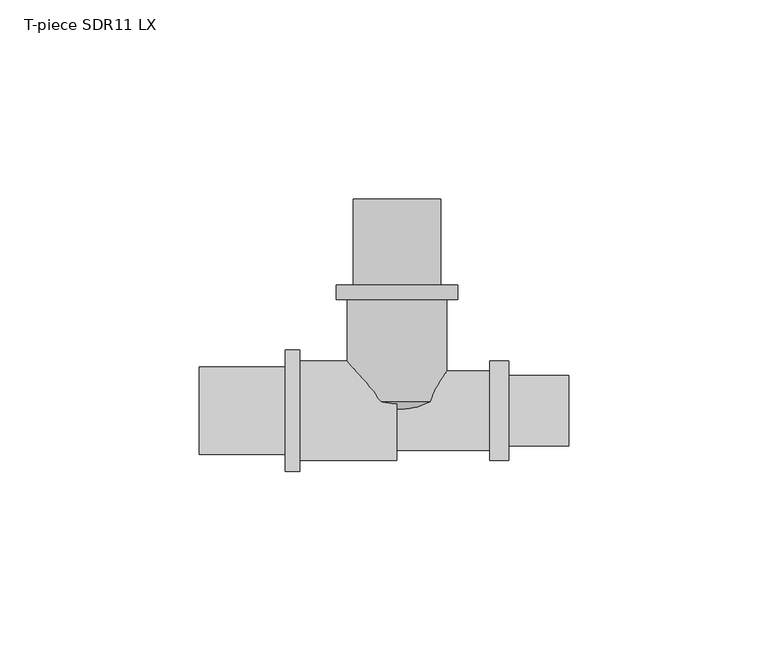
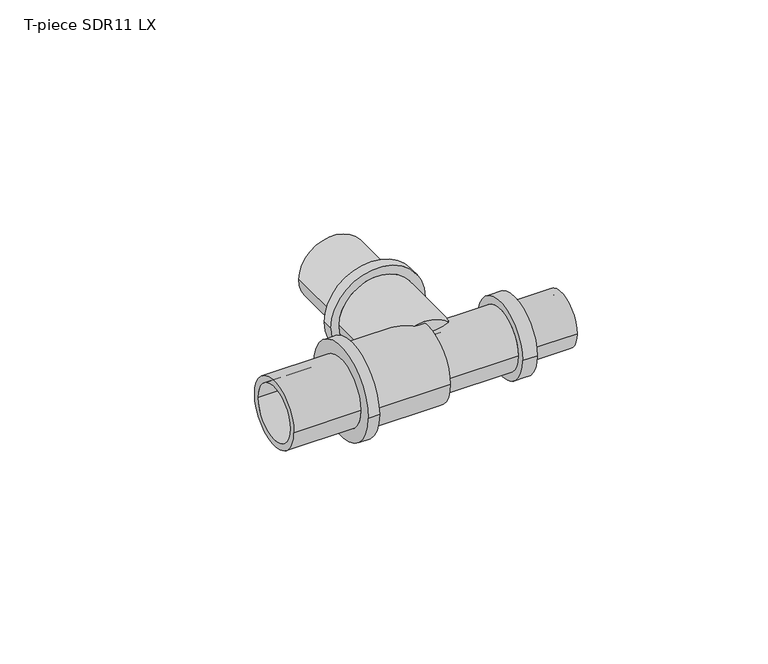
"""IFC4 building model written with IfcOpenShell, lengths in millimetres: pipe fitting geometry, T-piece SDR11 LX : T-piece LX SDR11 LX."""

from ifc_helpers import new_model, si_unit, point, frame, origin, place, context, project, spatial, polyline, circle_curve, ellipse_curve, trimmed, source, transform, mapped, element, save
from ifc_brep_helpers import plane_surface, cylinder_surface, revolved_surface, advanced_brep


def t_piece_sdr11_lx_62f51ed1(model_context):
    return source(origin(), model_context, "Body", "AdvancedBrep", [
        advanced_brep(
        [(12.5, 2.2621268, 0.0), (-12.5, 2.2621268, 0.0), (-12.5, 27.9, 0.0), (12.5, 27.9, 0.0), (8.9, 53.0, 0.0), (-8.9, 53.0, 0.0), (-8.9, 0.0, 0.0), (8.9, 0.0, 0.0), (11.0, 31.5, 0.0), (-11.0, 31.5, 0.0), (-11.0, 53.0, 0.0), (11.0, 53.0, 0.0), (15.25, 27.9, 0.0), (-15.25, 27.9, 0.0), (-15.25, 31.5, 0.0), (15.25, 31.5, 0.0)],
        [
            (0, 1, circle_curve(frame((0.0, 2.2621268, 0.0), z_axis=(0.0, 1.0, 0.0), x_axis=(-1.0, 0.0, 0.0)), 12.5)),
            (1, 2),
            (2, 3, circle_curve(frame((0.0, 27.9, 0.0), z_axis=(0.0, -1.0, 0.0), x_axis=(-1.0, 0.0, 0.0)), 12.5)),
            (3, 0),
            (4, 5, circle_curve(frame((0.0, 53.0, 0.0), z_axis=(0.0, 1.0, 0.0), x_axis=(-1.0, 0.0, 0.0)), 8.9)),
            (5, 6),
            (6, 7, circle_curve(frame((0.0, 0.0, 0.0), z_axis=(0.0, -1.0, 0.0), x_axis=(-1.0, 0.0, 0.0)), 8.9)),
            (7, 4),
            (8, 9, circle_curve(frame((0.0, 31.5, 0.0), z_axis=(0.0, 1.0, 0.0), x_axis=(-1.0, 0.0, 0.0)), 11.0)),
            (9, 10),
            (10, 11, circle_curve(frame((0.0, 53.0, 0.0), z_axis=(0.0, -1.0, 0.0), x_axis=(-1.0, 0.0, 0.0)), 11.0)),
            (11, 8),
            (12, 13, circle_curve(frame((0.0, 27.9, 0.0), z_axis=(0.0, 1.0, 0.0), x_axis=(-1.0, 0.0, 0.0)), 15.25)),
            (13, 14),
            (14, 15, circle_curve(frame((0.0, 31.5, 0.0), z_axis=(0.0, -1.0, 0.0), x_axis=(-1.0, 0.0, 0.0)), 15.25)),
            (15, 12),
            (12, 13, circle_curve(frame((0.0, 27.9, 0.0), z_axis=(0.0, -1.0, 0.0), x_axis=(1.0, 0.0, 0.0)), 15.25)),
            (2, 3, circle_curve(frame((0.0, 27.9, 0.0), z_axis=(0.0, 1.0, 0.0), x_axis=(1.0, 0.0, 0.0)), 12.5)),
            (1, 0, circle_curve(frame((0.0, 2.2621268, 0.0), z_axis=(0.0, 1.0, 0.0), x_axis=(1.0, 0.0, 0.0)), 12.5)),
            (5, 4, circle_curve(frame((0.0, 53.0, 0.0), z_axis=(0.0, 1.0, 0.0), x_axis=(1.0, 0.0, 0.0)), 8.9)),
            (7, 6, circle_curve(frame((0.0, 0.0, 0.0), z_axis=(0.0, -1.0, 0.0), x_axis=(1.0, 0.0, 0.0)), 8.9)),
            (10, 11, circle_curve(frame((0.0, 53.0, 0.0), z_axis=(0.0, 1.0, 0.0), x_axis=(1.0, 0.0, 0.0)), 11.0)),
            (9, 8, circle_curve(frame((0.0, 31.5, 0.0), z_axis=(0.0, 1.0, 0.0), x_axis=(1.0, 0.0, 0.0)), 11.0)),
            (14, 15, circle_curve(frame((0.0, 31.5, 0.0), z_axis=(0.0, 1.0, 0.0), x_axis=(1.0, 0.0, 0.0)), 15.25)),
            (6, 1, circle_curve(frame((-4.1462802, 11.5608022, 0.0), z_axis=(0.0, 0.0, -1.0), x_axis=(0.0, -1.0, 0.0)), 12.5)),
            (0, 7, circle_curve(frame((4.1462802, 11.5608022, 0.0), z_axis=(0.0, 0.0, -1.0), x_axis=(0.0, -1.0, 0.0)), 12.5)),
        ],
        [
            cylinder_surface(frame((0.0, 0.0, 0.0), z_axis=(0.0, -1.0, 0.0), x_axis=(-1.0, 0.0, 0.0)), 12.5),
            revolved_surface(polyline([(-8.9, 0.0, 0.0), (-8.9, 53.0, 0.0)]), (0.0, 0.0, 0.0), (0.0, -1.0, 0.0)),
            cylinder_surface(frame((0.0, 0.0, 0.0), z_axis=(0.0, -1.0, 0.0), x_axis=(-1.0, 0.0, 0.0)), 11.0),
            cylinder_surface(frame((0.0, 0.0, 0.0), z_axis=(0.0, -1.0, 0.0), x_axis=(-1.0, 0.0, 0.0)), 15.25),
            plane_surface(frame((0.0, 27.9, 0.0), z_axis=(0.0, -1.0, 0.0), x_axis=(1.0, 0.0, 0.0))),
            cylinder_surface(frame((0.0, 0.0, 0.0), z_axis=(0.0, -1.0, 0.0), x_axis=(1.0, 0.0, 0.0)), 12.5),
            revolved_surface(polyline([(8.9, 0.0, 0.0), (8.9, 53.0, 0.0)]), (0.0, 0.0, 0.0), (0.0, -1.0, 0.0)),
            plane_surface(frame((0.0, 53.0, 0.0), z_axis=(0.0, 1.0, 0.0), x_axis=(1.0, 0.0, 0.0))),
            cylinder_surface(frame((0.0, 0.0, 0.0), z_axis=(0.0, -1.0, 0.0), x_axis=(1.0, 0.0, 0.0)), 11.0),
            plane_surface(frame((0.0, 31.5, 0.0), z_axis=(0.0, 1.0, 0.0), x_axis=(1.0, 0.0, 0.0))),
            cylinder_surface(frame((0.0, 0.0, 0.0), z_axis=(0.0, -1.0, 0.0), x_axis=(1.0, 0.0, 0.0)), 15.25),
            revolved_surface(trimmed(ellipse_curve(frame((-4.1462802, 11.5608022, 0.0), z_axis=(0.0, 0.0, 1.0), x_axis=(0.0, -1.0, 0.0)), 12.5, 12.5), [point((-12.5, 2.2621268, 0.0))], [point((-8.9, 0.0, 0.0))], True, "CARTESIAN"), (0.0, 0.0, 0.0), (0.0, -1.0, 0.0)),
            revolved_surface(trimmed(ellipse_curve(frame((4.1462802, 11.5608022, 0.0), z_axis=(0.0, 0.0, -1.0), x_axis=(0.0, -1.0, 0.0)), 12.5, 12.5), [point((12.5, 2.2621268, 0.0))], [point((8.9, 0.0, 0.0))], True, "CARTESIAN"), (0.0, 0.0, 0.0), (0.0, -1.0, 0.0)),
        ],
        [
            (0, [[1, 2, 3, 4]]),
            (1, [[5, 6, 7, 8]]),
            (2, [[9, 10, 11, 12]]),
            (3, [[13, 14, 15, 16]]),
            (4, [[17, -13], [18, -3]]),
            (5, [[19, -4, -18, -2]]),
            (6, [[20, -8, 21, -6]]),
            (7, [[22, -11], [-20, -5]]),
            (8, [[23, -12, -22, -10]]),
            (9, [[24, -15], [-23, -9]]),
            (10, [[-17, -16, -24, -14]]),
            (11, [[-7, 25, -1, 26]]),
            (12, [[-21, -26, -19, -25]]),
        ],
    ),
        advanced_brep(
        [(23.3, 10.0, 0.0), (23.3, -10.0, 0.0), (0.0, -10.0, 0.0), (0.0, 10.0, 0.0), (0.0, 6.8, 0.0), (0.0, -6.8, 0.0), (43.0, -6.8, 0.0), (43.0, 6.8, 0.0), (43.0, 8.8, 0.0), (43.0, -8.8, 0.0), (28.0, -8.8, 0.0), (28.0, 8.8, 0.0), (28.0, 12.5, 0.0), (28.0, -12.5, 0.0), (23.3, -12.5, 0.0), (23.3, 12.5, 0.0)],
        [
            (0, 1, circle_curve(frame((23.3, 0.0, 0.0), z_axis=(-1.0, 0.0, 0.0), x_axis=(0.0, -1.0, 0.0)), 10.0)),
            (1, 2),
            (2, 3, circle_curve(frame((0.0, 0.0, 0.0), z_axis=(1.0, 0.0, 0.0), x_axis=(0.0, -1.0, 0.0)), 10.0)),
            (3, 0),
            (4, 5, circle_curve(frame((0.0, 0.0, 0.0), z_axis=(-1.0, 0.0, 0.0), x_axis=(0.0, -1.0, 0.0)), 6.8)),
            (5, 6),
            (6, 7, circle_curve(frame((43.0, 0.0, 0.0), z_axis=(1.0, 0.0, 0.0), x_axis=(0.0, -1.0, 0.0)), 6.8)),
            (7, 4),
            (8, 9, circle_curve(frame((43.0, 0.0, 0.0), z_axis=(-1.0, 0.0, 0.0), x_axis=(0.0, -1.0, 0.0)), 8.8)),
            (9, 10),
            (10, 11, circle_curve(frame((28.0, 0.0, 0.0), z_axis=(1.0, 0.0, 0.0), x_axis=(0.0, -1.0, 0.0)), 8.8)),
            (11, 8),
            (12, 13, circle_curve(frame((28.0, 0.0, 0.0), z_axis=(-1.0, 0.0, 0.0), x_axis=(0.0, -1.0, 0.0)), 12.5)),
            (13, 14),
            (14, 15, circle_curve(frame((23.3, 0.0, 0.0), z_axis=(1.0, 0.0, 0.0), x_axis=(0.0, -1.0, 0.0)), 12.5)),
            (15, 12),
            (14, 15, circle_curve(frame((23.3, 0.0, 0.0), z_axis=(-1.0, 0.0, 0.0), x_axis=(0.0, 1.0, 0.0)), 12.5)),
            (0, 1, circle_curve(frame((23.3, 0.0, 0.0), z_axis=(1.0, 0.0, 0.0), x_axis=(0.0, 1.0, 0.0)), 10.0)),
            (3, 2, circle_curve(frame((0.0, 0.0, 0.0), z_axis=(1.0, 0.0, 0.0), x_axis=(0.0, 1.0, 0.0)), 10.0)),
            (4, 5, circle_curve(frame((0.0, 0.0, 0.0), z_axis=(1.0, 0.0, 0.0), x_axis=(0.0, 1.0, 0.0)), 6.8)),
            (7, 6, circle_curve(frame((43.0, 0.0, 0.0), z_axis=(1.0, 0.0, 0.0), x_axis=(0.0, 1.0, 0.0)), 6.8)),
            (8, 9, circle_curve(frame((43.0, 0.0, 0.0), z_axis=(1.0, 0.0, 0.0), x_axis=(0.0, 1.0, 0.0)), 8.8)),
            (11, 10, circle_curve(frame((28.0, 0.0, 0.0), z_axis=(1.0, 0.0, 0.0), x_axis=(0.0, 1.0, 0.0)), 8.8)),
            (12, 13, circle_curve(frame((28.0, 0.0, 0.0), z_axis=(1.0, 0.0, 0.0), x_axis=(0.0, 1.0, 0.0)), 12.5)),
        ],
        [
            cylinder_surface(frame((0.0, 0.0, 0.0), z_axis=(1.0, 0.0, 0.0), x_axis=(0.0, -1.0, 0.0)), 10.0),
            revolved_surface(polyline([(43.0, -6.8, 0.0), (0.0, -6.8, 0.0)]), (0.0, 0.0, 0.0), (1.0, 0.0, 0.0)),
            cylinder_surface(frame((0.0, 0.0, 0.0), z_axis=(1.0, 0.0, 0.0), x_axis=(0.0, -1.0, 0.0)), 8.8),
            cylinder_surface(frame((0.0, 0.0, 0.0), z_axis=(1.0, 0.0, 0.0), x_axis=(0.0, -1.0, 0.0)), 12.5),
            plane_surface(frame((23.3, 0.0, 0.0), z_axis=(-1.0, 0.0, 0.0), x_axis=(0.0, 1.0, 0.0))),
            cylinder_surface(frame((0.0, 0.0, 0.0), z_axis=(1.0, 0.0, 0.0), x_axis=(0.0, 1.0, 0.0)), 10.0),
            plane_surface(frame((0.0, 0.0, 0.0), z_axis=(-1.0, 0.0, 0.0), x_axis=(0.0, 1.0, 0.0))),
            revolved_surface(polyline([(43.0, 6.8, 0.0), (0.0, 6.8, 0.0)]), (0.0, 0.0, 0.0), (1.0, 0.0, 0.0)),
            plane_surface(frame((43.0, 0.0, 0.0), z_axis=(1.0, 0.0, 0.0), x_axis=(0.0, 1.0, 0.0))),
            cylinder_surface(frame((0.0, 0.0, 0.0), z_axis=(1.0, 0.0, 0.0), x_axis=(0.0, 1.0, 0.0)), 8.8),
            plane_surface(frame((28.0, 0.0, 0.0), z_axis=(1.0, 0.0, 0.0), x_axis=(0.0, 1.0, 0.0))),
            cylinder_surface(frame((0.0, 0.0, 0.0), z_axis=(1.0, 0.0, 0.0), x_axis=(0.0, 1.0, 0.0)), 12.5),
        ],
        [
            (0, [[1, 2, 3, 4]]),
            (1, [[5, 6, 7, 8]]),
            (2, [[9, 10, 11, 12]]),
            (3, [[13, 14, 15, 16]]),
            (4, [[17, -15], [18, -1]]),
            (5, [[-18, -4, 19, -2]]),
            (6, [[-19, -3], [20, -5]]),
            (7, [[-20, -8, 21, -6]]),
            (8, [[22, -9], [-21, -7]]),
            (9, [[-22, -12, 23, -10]]),
            (10, [[24, -13], [-23, -11]]),
            (11, [[-24, -16, -17, -14]]),
        ],
    ),
        advanced_brep(
        [(0.0, 12.5, 0.0), (0.0, -12.5, 0.0), (-24.4, -12.5, 0.0), (-24.4, 12.5, 0.0), (-49.5, 8.9, 0.0), (-49.5, -8.9, 0.0), (0.0, -8.9, 0.0), (0.0, 8.9, 0.0), (-28.0, 11.0, 0.0), (-28.0, -11.0, 0.0), (-49.5, -11.0, 0.0), (-49.5, 11.0, 0.0), (-24.4, 15.25, 0.0), (-24.4, -15.25, 0.0), (-28.0, -15.25, 0.0), (-28.0, 15.25, 0.0)],
        [
            (0, 1, circle_curve(frame((0.0, 0.0, 0.0), z_axis=(-1.0, 0.0, 0.0), x_axis=(0.0, -1.0, 0.0)), 12.5)),
            (1, 2),
            (2, 3, circle_curve(frame((-24.4, 0.0, 0.0), z_axis=(1.0, 0.0, 0.0), x_axis=(0.0, -1.0, 0.0)), 12.5)),
            (3, 0),
            (4, 5, circle_curve(frame((-49.5, 0.0, 0.0), z_axis=(-1.0, 0.0, 0.0), x_axis=(0.0, -1.0, 0.0)), 8.9)),
            (5, 6),
            (6, 7, circle_curve(frame((0.0, 0.0, 0.0), z_axis=(1.0, 0.0, 0.0), x_axis=(0.0, -1.0, 0.0)), 8.9)),
            (7, 4),
            (8, 9, circle_curve(frame((-28.0, 0.0, 0.0), z_axis=(-1.0, 0.0, 0.0), x_axis=(0.0, -1.0, 0.0)), 11.0)),
            (9, 10),
            (10, 11, circle_curve(frame((-49.5, 0.0, 0.0), z_axis=(1.0, 0.0, 0.0), x_axis=(0.0, -1.0, 0.0)), 11.0)),
            (11, 8),
            (12, 13, circle_curve(frame((-24.4, 0.0, 0.0), z_axis=(-1.0, 0.0, 0.0), x_axis=(0.0, -1.0, 0.0)), 15.25)),
            (13, 14),
            (14, 15, circle_curve(frame((-28.0, 0.0, 0.0), z_axis=(1.0, 0.0, 0.0), x_axis=(0.0, -1.0, 0.0)), 15.25)),
            (15, 12),
            (12, 13, circle_curve(frame((-24.4, 0.0, 0.0), z_axis=(1.0, 0.0, 0.0), x_axis=(0.0, 1.0, 0.0)), 15.25)),
            (2, 3, circle_curve(frame((-24.4, 0.0, 0.0), z_axis=(-1.0, 0.0, 0.0), x_axis=(0.0, 1.0, 0.0)), 12.5)),
            (1, 0, circle_curve(frame((0.0, 0.0, 0.0), z_axis=(-1.0, 0.0, 0.0), x_axis=(0.0, 1.0, 0.0)), 12.5)),
            (6, 7, circle_curve(frame((0.0, 0.0, 0.0), z_axis=(-1.0, 0.0, 0.0), x_axis=(0.0, 1.0, 0.0)), 8.9)),
            (5, 4, circle_curve(frame((-49.5, 0.0, 0.0), z_axis=(-1.0, 0.0, 0.0), x_axis=(0.0, 1.0, 0.0)), 8.9)),
            (10, 11, circle_curve(frame((-49.5, 0.0, 0.0), z_axis=(-1.0, 0.0, 0.0), x_axis=(0.0, 1.0, 0.0)), 11.0)),
            (9, 8, circle_curve(frame((-28.0, 0.0, 0.0), z_axis=(-1.0, 0.0, 0.0), x_axis=(0.0, 1.0, 0.0)), 11.0)),
            (14, 15, circle_curve(frame((-28.0, 0.0, 0.0), z_axis=(-1.0, 0.0, 0.0), x_axis=(0.0, 1.0, 0.0)), 15.25)),
        ],
        [
            cylinder_surface(frame((0.0, 0.0, 0.0), z_axis=(1.0, 0.0, 0.0), x_axis=(0.0, -1.0, 0.0)), 12.5),
            revolved_surface(polyline([(0.0, -8.9, 0.0), (-49.5, -8.9, 0.0)]), (0.0, 0.0, 0.0), (1.0, 0.0, 0.0)),
            cylinder_surface(frame((0.0, 0.0, 0.0), z_axis=(1.0, 0.0, 0.0), x_axis=(0.0, -1.0, 0.0)), 11.0),
            cylinder_surface(frame((0.0, 0.0, 0.0), z_axis=(1.0, 0.0, 0.0), x_axis=(0.0, -1.0, 0.0)), 15.25),
            plane_surface(frame((-24.4, 0.0, 0.0), z_axis=(1.0, 0.0, 0.0), x_axis=(0.0, 1.0, 0.0))),
            cylinder_surface(frame((0.0, 0.0, 0.0), z_axis=(1.0, 0.0, 0.0), x_axis=(0.0, 1.0, 0.0)), 12.5),
            plane_surface(frame((0.0, 0.0, 0.0), z_axis=(1.0, 0.0, 0.0), x_axis=(0.0, 1.0, 0.0))),
            revolved_surface(polyline([(0.0, 8.9, 0.0), (-49.5, 8.9, 0.0)]), (0.0, 0.0, 0.0), (1.0, 0.0, 0.0)),
            plane_surface(frame((-49.5, 0.0, 0.0), z_axis=(-1.0, 0.0, 0.0), x_axis=(0.0, 1.0, 0.0))),
            cylinder_surface(frame((0.0, 0.0, 0.0), z_axis=(1.0, 0.0, 0.0), x_axis=(0.0, 1.0, 0.0)), 11.0),
            plane_surface(frame((-28.0, 0.0, 0.0), z_axis=(-1.0, 0.0, 0.0), x_axis=(0.0, 1.0, 0.0))),
            cylinder_surface(frame((0.0, 0.0, 0.0), z_axis=(1.0, 0.0, 0.0), x_axis=(0.0, 1.0, 0.0)), 15.25),
        ],
        [
            (0, [[1, 2, 3, 4]]),
            (1, [[5, 6, 7, 8]]),
            (2, [[9, 10, 11, 12]]),
            (3, [[13, 14, 15, 16]]),
            (4, [[17, -13], [18, -3]]),
            (5, [[19, -4, -18, -2]]),
            (6, [[-19, -1], [20, -7]]),
            (7, [[21, -8, -20, -6]]),
            (8, [[22, -11], [-21, -5]]),
            (9, [[23, -12, -22, -10]]),
            (10, [[24, -15], [-23, -9]]),
            (11, [[-17, -16, -24, -14]]),
        ],
    ),
    ])


if __name__ == "__main__":
    model = new_model("IFC4")
    model_context = context("Model", 3, world=origin())
    ifc_project = project(units=[si_unit("LENGTHUNIT", "METRE", prefix="MILLI")], contexts=[model_context])
    site = spatial("IfcSite", under=ifc_project)
    building = spatial("IfcBuilding", under=site)
    placement = place(None, origin())
    t_piece_sdr11_lx_shape = t_piece_sdr11_lx_62f51ed1(model_context)
    element("IfcPipeFitting", 1, ObjectType="T-piece SDR11 LX : T-piece LX SDR11 LX", at=placement, inside=building, context=model_context, shape_type="MappedRepresentation", body=[
        mapped(t_piece_sdr11_lx_shape, transform((0.0, 0.0, 0.0), x_axis=(1.0, 0.0, 0.0), y_axis=(0.0, 1.0, 0.0), z_axis=(0.0, 0.0, 1.0))),
    ])
    save(model, "model.ifc")
